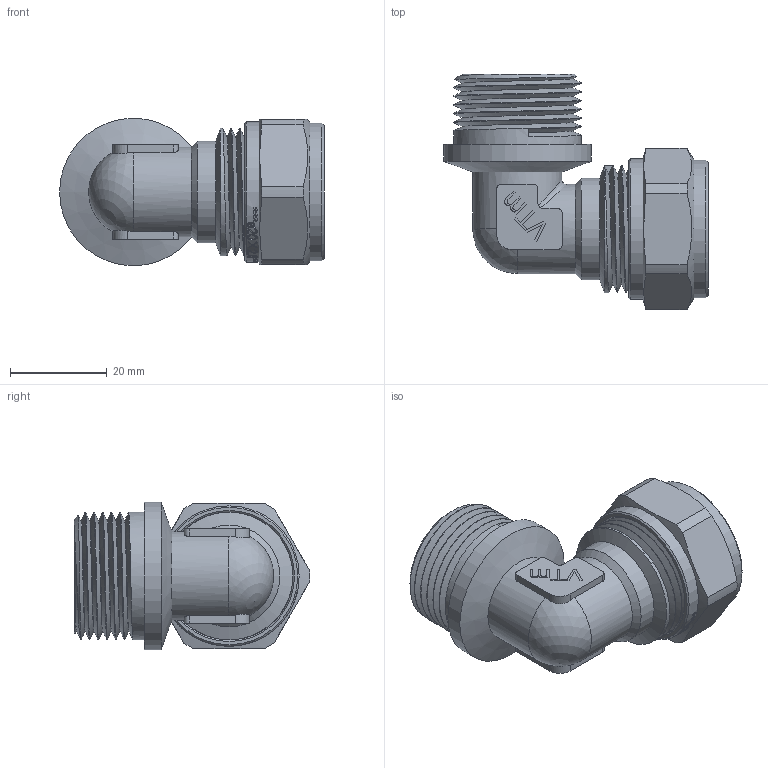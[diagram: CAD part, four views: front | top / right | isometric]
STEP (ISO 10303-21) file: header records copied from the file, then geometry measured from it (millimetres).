
FILE_DESCRIPTION(/* description */ (''),/* implementation_level */ '2;1');
FILE_NAME(/* name */ 'F:\Артём\00000\Работа удаленка\Обжимные фитинги\VTm.353.N.002005.stp',/* time_stamp */ '2020-08-10T13:17:49+03:00',/* author */ ('almis'),/* organization */ (''),/* preprocessor_version */ 'ST-DEVELOPER v18',/* originating_system */ 'Autodesk Inventor 2020',/* authorisation */ '');
FILE_SCHEMA (('AUTOMOTIVE_DESIGN { 1 0 10303 214 3 1 1 }'));
Length unit declared in the file: millimetre
Products named in the file (1): VTm.341.N.202020
Bounding box: 54.73 x 48.71 x 30.5 mm (x, y, z)
Volume: 18144.2 mm3; surface area: 15964.1 mm2
Topology: 1 solids, 2 shells, 757 faces, 2124 edges, 1429 vertices
Faces by surface type: bspline 371, plane 237, cylinder 106, torus 23, cone 18, sphere 2
Full cylindrical faces by diameter (mm): 11.5 x1, 13.4 x2, 15 x1, 15.75 x4, 18.444 x2, 19.986 x4, 20.2 x1, 20.5 x1, 20.728 x5, 21 x2, 22.8 x9, 23.201 x1, 24.2 x1, 26.4 x9, 28.5 x1, 29 x1, 30.5 x1
Entity records: 32737 total; most frequent: CARTESIAN_POINT 15516, ORIENTED_EDGE 4244, DIRECTION 2421, EDGE_CURVE 2122, VERTEX_POINT 1429, LINE 963, VECTOR 963, EDGE_LOOP 821
